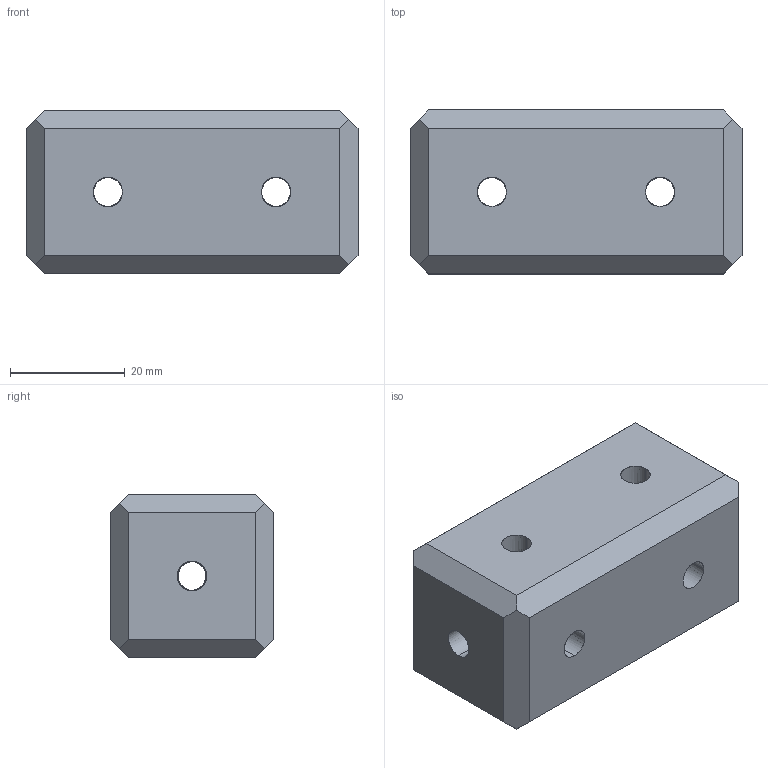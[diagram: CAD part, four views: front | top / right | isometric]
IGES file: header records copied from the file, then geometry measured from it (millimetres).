
Start section: SolidWorks IGES file using analytic representation for surfaces
Global section: file name: \\SERVER3\Design\_New Design Drive Folder List\_Design Vault\AAI\Modular Round Tube Connectors\Solidworks Models\STP Files\12202013\0.750 Inch Modular Connectors\Parts\Modular 1X2 Block Connector.IGS; native system: SolidWorks 2013; preprocessor: SolidWorks 2013; author: tbraun; date: 140108.162301; units: inch
Bounding box: 57.91 x 28.57 x 28.57 mm (x, y, z)
Surface area: 9496.8 mm2 (no closed solid volume)
Topology: 0 solids, 0 shells, 40 faces, 864 edges, 864 vertices
Faces by surface type: revolution 22, bspline 18
